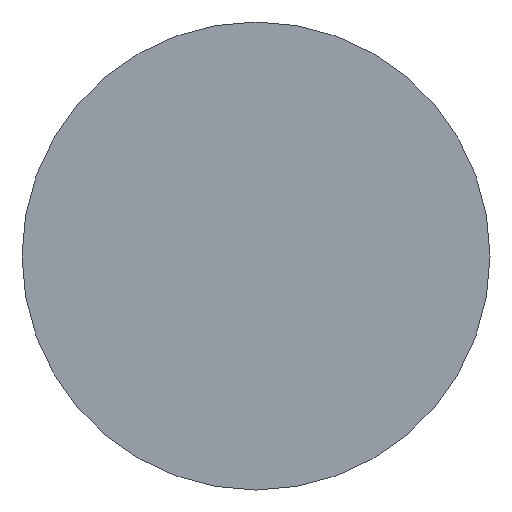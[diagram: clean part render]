
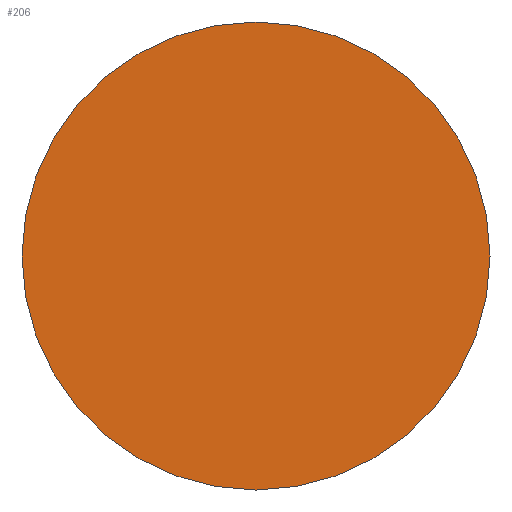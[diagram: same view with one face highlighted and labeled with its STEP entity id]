
A CAD part, left-side view. The second image highlights one B-rep face of the part: STEP entity #206.
In plain terms, the highlighted planar face has unit normal (-1, 0, 0).
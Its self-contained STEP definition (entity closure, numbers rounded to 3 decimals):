
#6 = AXIS2_PLACEMENT_3D ( 'NONE', #258, #194, #207 ) ;
#16 = CIRCLE ( 'NONE', #165, 1.25 ) ;
#18 = EDGE_CURVE ( 'NONE', #79, #183, #261, .T. ) ;
#24 = ORIENTED_EDGE ( 'NONE', *, *, #43, .T. ) ;
#36 = CARTESIAN_POINT ( 'NONE',  ( 0., 0., 1.25 ) ) ;
#43 = EDGE_CURVE ( 'NONE', #183, #79, #16, .T. ) ;
#64 = EDGE_LOOP ( 'NONE', ( #24, #118 ) ) ;
#79 = VERTEX_POINT ( 'NONE', #230 ) ;
#118 = ORIENTED_EDGE ( 'NONE', *, *, #18, .T. ) ;
#133 = DIRECTION ( 'NONE',  ( -1., 0., 0. ) ) ;
#144 = AXIS2_PLACEMENT_3D ( 'NONE', #270, #263, #179 ) ;
#165 = AXIS2_PLACEMENT_3D ( 'NONE', #252, #133, #175 ) ;
#175 = DIRECTION ( 'NONE',  ( 0., 0., 1. ) ) ;
#179 = DIRECTION ( 'NONE',  ( 0., 0., 1. ) ) ;
#183 = VERTEX_POINT ( 'NONE', #36 ) ;
#194 = DIRECTION ( 'NONE',  ( 1., 0., 0. ) ) ;
#206 = ADVANCED_FACE ( 'NONE', ( #277 ), #289, .F. ) ;
#207 = DIRECTION ( 'NONE',  ( 0., 0., -1. ) ) ;
#230 = CARTESIAN_POINT ( 'NONE',  ( 0., 0., -1.25 ) ) ;
#252 = CARTESIAN_POINT ( 'NONE',  ( 0., 0., 0. ) ) ;
#258 = CARTESIAN_POINT ( 'NONE',  ( 0., 0., 0. ) ) ;
#261 = CIRCLE ( 'NONE', #144, 1.25 ) ;
#263 = DIRECTION ( 'NONE',  ( -1., 0., 0. ) ) ;
#270 = CARTESIAN_POINT ( 'NONE',  ( 0., 0., 0. ) ) ;
#277 = FACE_OUTER_BOUND ( 'NONE', #64, .T. ) ;
#289 = PLANE ( 'NONE',  #6 ) ;
